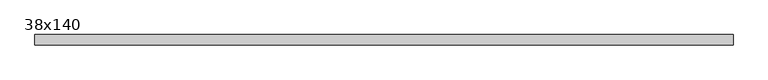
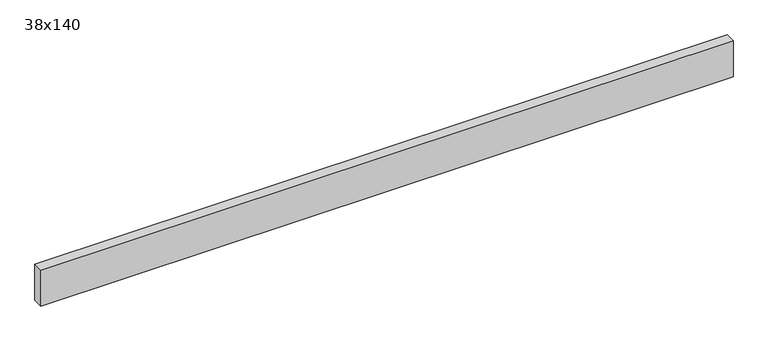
"""IFC4 building model written with IfcOpenShell, lengths in millimetres: beam geometry, Graded Timber : 38x140."""

from ifc_helpers import new_model, si_unit, frame, origin, place, context, project, spatial, polyline, outline, extrude, source, transform, mapped, element, save


def beam_38x140_6110aaea(model_context):
    return source(origin(), model_context, "Body", "SweptSolid", [
        extrude(outline(polyline([(1255.0, 19.0), (1255.0, -19.0), (-1292.0384004, -19.0), (-1292.0384004, 19.0), (1255.0, 19.0)])), frame((0.0, 0.0, -70.0), z_axis=(0.0, 0.0, 1.0), x_axis=(1.0, 0.0, 0.0)), (0.0, 0.0, 1.0), 140.0),
    ])


if __name__ == "__main__":
    model = new_model("IFC4")
    model_context = context("Model", 3, world=origin())
    ifc_project = project(units=[si_unit("LENGTHUNIT", "METRE", prefix="MILLI")], contexts=[model_context])
    site = spatial("IfcSite", under=ifc_project)
    building = spatial("IfcBuilding", under=site)
    placement = place(None, origin())
    beam_38x140_shape = beam_38x140_6110aaea(model_context)
    element("IfcBeam", 1, ObjectType="Graded Timber : 38x140", at=placement, inside=building, context=model_context, shape_type="MappedRepresentation", body=[
        mapped(beam_38x140_shape, transform((0.0, 0.0, 0.0), x_axis=(1.0, 0.0, 0.0), y_axis=(0.0, 1.0, 0.0), z_axis=(0.0, 0.0, 1.0))),
    ])
    save(model, "model.ifc")
